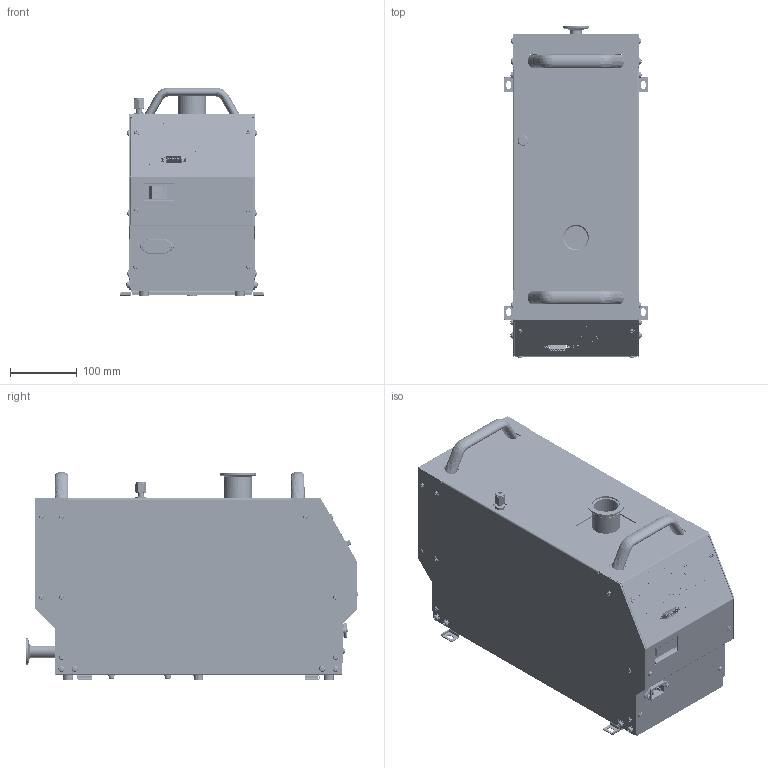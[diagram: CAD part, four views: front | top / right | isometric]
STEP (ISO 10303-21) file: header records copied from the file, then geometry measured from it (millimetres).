
FILE_DESCRIPTION(/* description */ ('Unknown'),/* implementation_level */ '2;1');
FILE_NAME(/* name */ 'S:\2D\DATA\4GDWGデータ\MOVE\酒井\DSP\OV固定金具付\DSP501(3D)-固定金具付.stp',/* time_stamp */ '2021-11-04T18:39:27+09:00',/* author */ ('OVSACAD18'),/* organization */ ('Unknown'),/* preprocessor_version */ 'ST-DEVELOPER v16.5',/* originating_system */ 'Autodesk Inventor 2017',/* authorisation */ '');
FILE_SCHEMA (('AUTOMOTIVE_DESIGN { 1 0 10303 214 3 1 1 }'));
Products named in the file (60): DSP501 W8-A191121501-03(3D)-固定金具削除; W1-C161901701-00; W1-C161901701-00_1; W1-C161901701-00_2; 排気ユニット_Japan.932; W1-C161466001-00; W1-C191411501-00; W1-C191411501-00_01; W1-C191411501-00_02; bsh-m04x12; dct4-r2ss; W1-C190609501-00; W1-C161896001-02; base; W1-C161896001-02_2; W1-C161896001-02_3; W1-C161901602-00; 冷却ファン109L1424; ファンフレーム-109L1424H10t_hold
(; ファン-ka; W1-C090219701-00; C-30-FRB-15; コント0; ハン191121501-03; 防振ｺﾞﾑ \X2\FF75FF88FF7CFF9EFF65FF92
FF88FF7C\X0\; W1-C161897501-02; W1-C190175602-00; W1-C161897601-02; W1-C102294601-01; ﾌｨﾝｶﾞｰｶﾞｰﾄﾞ10
9-719H; Assembly24; 外装カ6; W1-C190609401-03_2; W1-C190609401-03_3; W1-C190609401-03_6; W1-C190609401-03_7; W1-C190609401-03_4; W1-C190609401-03_5; C-1100-001-7300; PDVC-S-CP_C-5150-004-1700 ...
Assembly tree (152 placements, depth 4):
  DSP501 W8-A191121501-03(3D)-固定金具削除
    C-30-FRB-15  x5
    W1-C161901701-00
      W1-C161901701-00_1
      W1-C161901701-00_2
    排気ユニット_Japan.932
      W1-C161466001-00
      W1-C191411501-00
        W1-C191411501-00_01
        W1-C191411501-00_02
      bsh-m04x12  x4
      dct4-r2ss
    W1-C190609501-00
    W1-C161896001-02
      base
      W1-C161896001-02_3  x12
      W1-C161896001-02_2
    sfbs-m4×8-sus  x24
    W1-C161901602-00
    zm-m05  x8
    冷却ファン109L1424
      ファンフレーム-109L1424H10t_hold
(
      ファン-ka
    低頭六角穴付ﾎﾞﾙﾄ  x4
    la-setB-m05x12-sus304  x12
    W1-C090219701-00
    zr-m05(付属  x4
    n-m05(付属  x4
    コント0
    防振ｺﾞﾑ \X2\FF75FF88FF7CFF9EFF65FF92
FF88FF7C\X0\  x4
    ハン191121501-03  x2
    zr-m05  x4
    W1-C161897501-02
    W1-C190175602-00
    W1-C161897601-02
    la_setB-m03x6-sus304  x5
    W1-C102294601-01
    ﾌｨﾝｶﾞｰｶﾞｰﾄﾞ10
9-719H
    Assembly24
      外装カ6
      W1-C190609401-03_2  x2
      W1-C190609401-03_3
      W1-C190609401-03_6
      W1-C190609401-03_7
      W1-C190609401-03_4
      W1-C190609401-03_5
    C-1100-001-7300
    PDVC-S-CP_C-5150-004-1700
    zm-m06  x2
    n-m04  x4
    PDVC-S-INLET_C-5550-015-5300
    W1-9118527
    ﾒｽｺﾈｸﾀ
    la_setB-m03x12-ss  x2
    la_setB-m04x16-sus304  x4
    W1-C190609301-00
    p006_0f
    g030_0f
    la-m02_5x06  x5
    Part601  x2
Bounding box: 215 x 496.7 x 311.98 mm (x, y, z)
Volume: 4461785.5 mm3; surface area: 2435615.6 mm2
Topology: 159 solids, 159 shells, 3982 faces, 9711 edges, 6468 vertices
Faces by surface type: plane 2506, cylinder 1089, cone 137, bspline 129, torus 90, sphere 31
Full cylindrical faces by diameter (mm): 1.5 x15, 1.6 x24, 2.013 x10, 2.2 x7, 2.459 x7, 3 x18, 3.2 x3, 3.242 x36, 3.5 x8, 4 x35, 4.1 x12, 4.134 x24, 4.3 x8, 4.35 x1, 4.5 x24, 4.82 x1, 5 x50, 5.2 x2, 5.3 x8, 5.5 x21, 5.8 x1, 6 x23, 6.2 x10, 6.35 x5, 6.4 x2, 6.5 x16, 6.928 x1, 7 x40, 7.1 x12, 7.6 x4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
Entity records: 79638 total; most frequent: CARTESIAN_POINT 19329, DIRECTION 11706, ORIENTED_EDGE 11106, EDGE_CURVE 5552, AXIS2_PLACEMENT_3D 3926, VERTEX_POINT 3916, LINE 3854, VECTOR 3854
